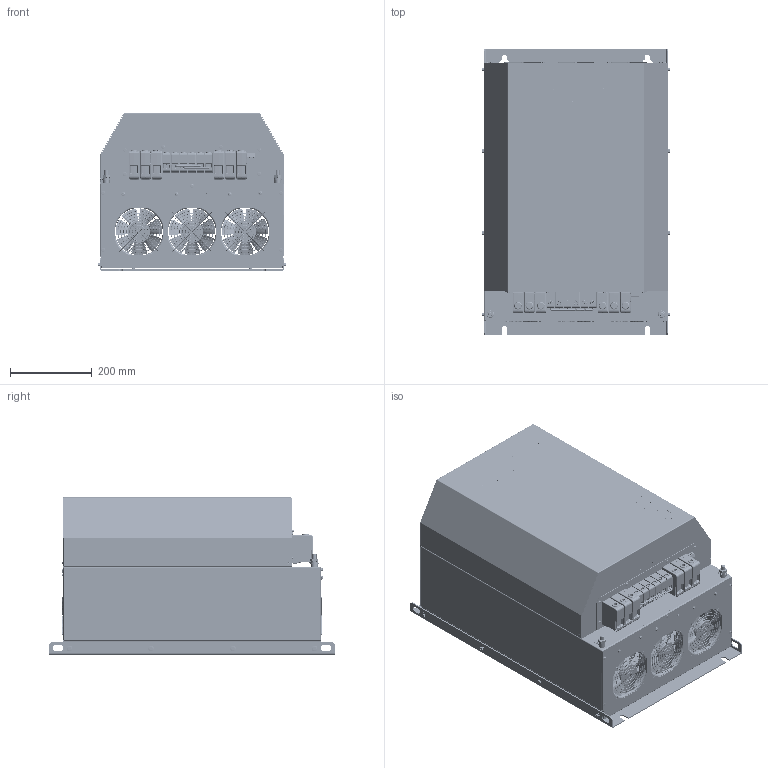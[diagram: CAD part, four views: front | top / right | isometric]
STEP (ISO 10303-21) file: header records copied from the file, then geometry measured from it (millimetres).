
FILE_DESCRIPTION(/* description */ (''),/* implementation_level */ '2;1');
FILE_NAME(/* name */ 'C:\Users\Erika.Jenzer\OneDrive - Schaffner EMV AG\PLUTUS\Plutus Customer STEP\Neuer Ordner\CUSTOMER FN3446-110-40-E2FAJXX.stp',/* time_stamp */ '2023-07-26T14:19:51+02:00',/* author */ ('erika.jenzer'),/* organization */ (''),/* preprocessor_version */ 'ST-DEVELOPER v18.1',/* originating_system */ 'Autodesk Inventor 2020',/* authorisation */ '');
FILE_SCHEMA (('AUTOMOTIVE_DESIGN { 1 0 10303 214 3 1 1 }'));
Products named in the file (1): CUSTOMER FN3446-110-40-E2FAJXX
Bounding box: 459.59 x 700 x 385.15 mm (x, y, z)
Volume: 3423608.4 mm3; surface area: 3282848.4 mm2
Topology: 52 solids, 55 shells, 9533 faces, 24353 edges, 14844 vertices
Faces by surface type: plane 3727, cylinder 2516, bspline 2008, cone 569, torus 509, sphere 204
Full cylindrical faces by diameter (mm): 2 x4, 2.8 x6, 3.2 x4, 3.3 x9, 3.4 x4, 4 x104, 4.3 x26, 4.5 x1, 4.881 x6, 5.2 x4, 5.5 x40, 6 x20, 6.5 x8, 7 x8, 7.8 x3, 8 x9, 8.3 x6, 8.7 x4, 9 x2, 9.188 x2, 9.8 x1, 9.9 x2, 10 x30, 10.379 x1, 10.5 x2, 11 x2, 11.05 x4, 11.6 x6, 12 x2, 12.7 x3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
Entity records: 391621 total; most frequent: CARTESIAN_POINT 162465, ORIENTED_EDGE 48244, DIRECTION 44075, EDGE_CURVE 24122, AXIS2_PLACEMENT_3D 16324, VERTEX_POINT 14865, LINE 11427, VECTOR 11427
